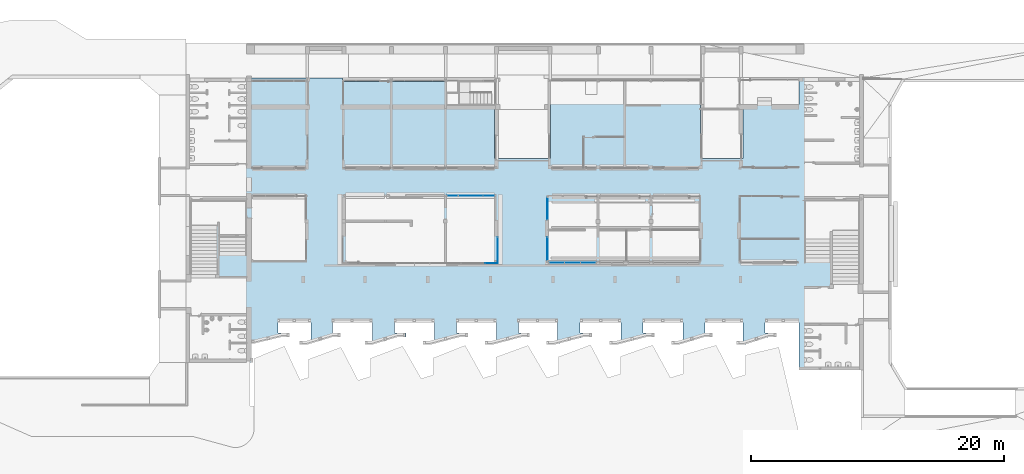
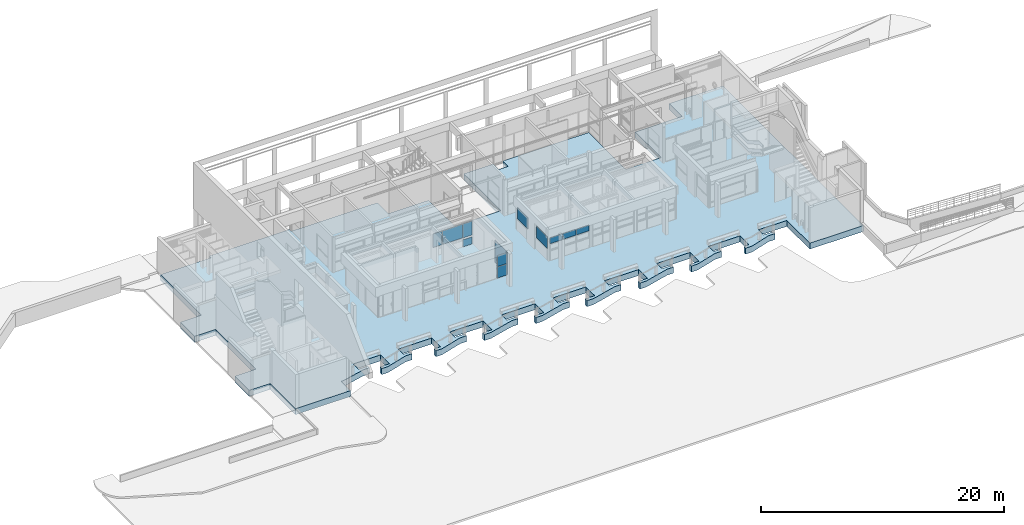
# One storey, part 35 of 117: 12 plates, 1 slab, 6 elements without a shape of their own.
"""IFC4 building model written with IfcOpenShell, lengths in metres."""

from ifc_helpers import new_model, entity, si_unit, converted_unit, derived_unit, direction, frame, origin, place, context, subcontext, project, spatial, indexed_curve, outline, extrude, source, transform, mapped, material, type_object, type_shapes, element, aggregate, save


model = new_model("IFC4")

# Units and contexts
model_context = context("Model", 3, precision=1e-05, world=origin(), true_north=direction((6.123031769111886e-17, 1.0)))
body_context = subcontext(model_context, "Body", "Model", "MODEL_VIEW")
ifc_project = project(units=[si_unit("LENGTHUNIT", "METRE"), si_unit("AREAUNIT", "SQUARE_METRE"), si_unit("VOLUMEUNIT", "CUBIC_METRE"), converted_unit("PLANEANGLEUNIT", "DEGREE", entity("IfcRatioMeasure", 0.017453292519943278), si_unit("PLANEANGLEUNIT", "RADIAN"), dimensions=[0, 0, 0, 0, 0, 0, 0]), si_unit("MASSUNIT", "GRAM", prefix="KILO"), derived_unit("MASSDENSITYUNIT", [(si_unit("MASSUNIT", "GRAM", prefix="KILO"), 1), (si_unit("LENGTHUNIT", "METRE"), -3)]), derived_unit("MOMENTOFINERTIAUNIT", [(si_unit("LENGTHUNIT", "METRE"), 4)]), si_unit("TIMEUNIT", "SECOND"), si_unit("FREQUENCYUNIT", "HERTZ"), si_unit("THERMODYNAMICTEMPERATUREUNIT", "DEGREE_CELSIUS"), derived_unit("THERMALTRANSMITTANCEUNIT", [(si_unit("MASSUNIT", "GRAM", prefix="KILO"), 1), (si_unit("THERMODYNAMICTEMPERATUREUNIT", "KELVIN"), -1), (si_unit("TIMEUNIT", "SECOND"), -3)]), derived_unit("VOLUMETRICFLOWRATEUNIT", [(si_unit("LENGTHUNIT", "METRE"), 3), (si_unit("TIMEUNIT", "SECOND"), -1)]), derived_unit("MASSFLOWRATEUNIT", [(si_unit("MASSUNIT", "GRAM", prefix="KILO"), 1), (si_unit("TIMEUNIT", "SECOND"), -1)]), derived_unit("ROTATIONALFREQUENCYUNIT", [(si_unit("TIMEUNIT", "SECOND"), -1)]), si_unit("ELECTRICCURRENTUNIT", "AMPERE"), si_unit("ELECTRICVOLTAGEUNIT", "VOLT"), si_unit("POWERUNIT", "WATT"), si_unit("FORCEUNIT", "NEWTON", prefix="KILO"), si_unit("ILLUMINANCEUNIT", "LUX"), si_unit("LUMINOUSFLUXUNIT", "LUMEN"), si_unit("LUMINOUSINTENSITYUNIT", "CANDELA"), derived_unit("USERDEFINED", [(si_unit("MASSUNIT", "GRAM", prefix="KILO"), -1), (si_unit("LENGTHUNIT", "METRE"), -2), (si_unit("TIMEUNIT", "SECOND"), 3), (si_unit("LUMINOUSFLUXUNIT", "LUMEN"), 1)]), derived_unit("SOUNDPOWERUNIT", [(si_unit("MASSUNIT", "GRAM", prefix="KILO"), 1), (si_unit("LENGTHUNIT", "METRE"), 2), (si_unit("TIMEUNIT", "SECOND"), -3)]), derived_unit("SOUNDPRESSUREUNIT", [(si_unit("MASSUNIT", "GRAM", prefix="KILO"), 1), (si_unit("LENGTHUNIT", "METRE"), -1), (si_unit("TIMEUNIT", "SECOND"), -2)]), derived_unit("LINEARVELOCITYUNIT", [(si_unit("LENGTHUNIT", "METRE"), 1), (si_unit("TIMEUNIT", "SECOND"), -1)]), si_unit("PRESSUREUNIT", "PASCAL"), derived_unit("USERDEFINED", [(si_unit("LENGTHUNIT", "METRE"), -2), (si_unit("MASSUNIT", "GRAM", prefix="KILO"), 1), (si_unit("TIMEUNIT", "SECOND"), -2)]), derived_unit("LINEARFORCEUNIT", [(si_unit("MASSUNIT", "GRAM", prefix="KILO"), 1), (si_unit("LENGTHUNIT", "METRE"), 1), (si_unit("TIMEUNIT", "SECOND"), -2), (si_unit("LENGTHUNIT", "METRE"), -1)]), derived_unit("PLANARFORCEUNIT", [(si_unit("MASSUNIT", "GRAM", prefix="KILO"), 1), (si_unit("LENGTHUNIT", "METRE"), 1), (si_unit("TIMEUNIT", "SECOND"), -2), (si_unit("LENGTHUNIT", "METRE"), -2)])], contexts=[model_context])

# Site, building, storey
site_placement = place(None, origin())
site = spatial("IfcSite", under=ifc_project, at=site_placement, Name="Superficie", CompositionType="ELEMENT")
building_placement = place(site_placement, origin())
building = spatial("IfcBuilding", under=site, at=building_placement, CompositionType="ELEMENT")
storey_placement = place(building_placement, origin())
storey = spatial("IfcBuildingStorey", under=building, at=storey_placement, Name="Nivel 0", CompositionType="ELEMENT", Elevation=0.0)

# Slab
ifc_material_1 = material(Name="Suelos por defecto", Category="Genérico")
slab_type = type_object("IfcSlabType", Name="Suelo:Por defecto - 60 cm 2", PredefinedType="FLOOR", material=ifc_material_1)
slab_placement = place(storey_placement, origin())
element("IfcSlab", 1, at=slab_placement, inside=storey, type_object=slab_type, material=ifc_material_1, Name="Suelo:Por defecto - 60 cm 2", ObjectType="Suelo:Por defecto - 60 cm 2", PredefinedType="FLOOR", context=body_context, shape_type="SweptSolid", body=[
    extrude(outline(indexed_curve([(7.188764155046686, -27.0347429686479), (9.543764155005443, -27.0347429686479), (9.543764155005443, -25.034742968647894), (16.263764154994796, -25.034742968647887), (16.263764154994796, -20.23474296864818), (16.563764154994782, -20.23474296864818), (16.56376415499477, -12.654742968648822), (16.263764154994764, -12.654742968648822), (16.263764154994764, -4.458930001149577), (14.458393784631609, -4.458930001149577), (14.458393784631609, -0.6447429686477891), (10.209674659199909, -0.6447429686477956), (10.209674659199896, 3.75001004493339), (16.297483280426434, 3.750010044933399), (16.297483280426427, 6.535010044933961), (15.397483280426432, 6.535010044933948), (15.397483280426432, 7.450010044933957), (16.297483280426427, 7.450010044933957), (16.2974832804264, 15.600257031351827), (10.20967465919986, 15.600257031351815), (10.20967465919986, 18.95525703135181), (14.463764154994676, 18.95525703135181), (14.463764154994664, 23.39525703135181), (16.577483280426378, 23.395257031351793), (16.577483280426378, 28.485257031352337), (-6.521235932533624, 28.485257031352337), (-6.521235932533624, 23.395257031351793), (-2.7512055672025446, 23.395257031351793), (-2.7512055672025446, 20.724717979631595), (-3.591235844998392, 20.72471797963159), (-3.591235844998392, 21.624490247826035), (-3.8912358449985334, 21.624490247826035), (-3.8912358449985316, 21.024490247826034), (-4.511205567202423, 19.074459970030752), (-4.511205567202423, 18.474459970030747), (-4.201205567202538, 18.474459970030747), (-4.201205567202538, 18.97445997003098), (-2.751205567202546, 18.97445997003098), (-2.751205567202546, 15.954459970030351), (-3.5912055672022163, 15.954459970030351), (-3.5912055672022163, 16.554459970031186), (-3.8912055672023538, 16.554459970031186), (-3.8912055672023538, 15.954459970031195), (-4.5012055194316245, 13.92446012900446), (-4.501205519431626, 13.324346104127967), (-4.201205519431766, 13.324346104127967), (-4.201205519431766, 14.225257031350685), (-2.751205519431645, 14.225257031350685), (-2.751205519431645, 11.064801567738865), (-3.5912055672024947, 11.064801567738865), (-3.5912055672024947, 11.964573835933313), (-3.891205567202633, 11.964573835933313), (-3.891205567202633, 11.364573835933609), (-4.501205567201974, 9.035257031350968), (-4.501205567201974, 8.435257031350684), (-4.201205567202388, 8.435257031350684), (-4.201205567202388, 9.334801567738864), (-2.7512055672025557, 9.334801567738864), (-2.751205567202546, 6.085029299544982), (-3.5912055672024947, 6.085029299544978), (-3.5912055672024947, 7.024801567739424), (-3.891205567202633, 7.024801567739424), (-3.891205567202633, 6.424801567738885), (-4.501205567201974, 4.094801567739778), (-4.501205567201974, 3.435257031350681), (-4.201205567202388, 3.435257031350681), (-4.201205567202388, 4.335257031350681), (-2.7512055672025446, 4.335257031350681), (-2.7512055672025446, 1.225029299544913), (-3.591205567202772, 1.225029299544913), (-3.591205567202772, 2.12480156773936), (-3.891205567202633, 2.12480156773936), (-3.891205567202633, 1.5248015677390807), (-4.501205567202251, -0.8051984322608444), (-4.501205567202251, -1.4051984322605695), (-4.201205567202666, -1.4051984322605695), (-4.201205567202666, -0.5047429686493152), (-2.751205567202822, -0.5047429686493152), (-2.751205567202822, -3.6548568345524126), (-3.591205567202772, -3.6548568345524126), (-3.591205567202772, -2.7550845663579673), (-3.8912055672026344, -2.7550845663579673), (-3.8912055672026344, -3.3550845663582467), (-4.50120556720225, -5.705084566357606), (-4.501205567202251, -6.30508456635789), (-4.201205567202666, -6.30508456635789), (-4.201205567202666, -5.404742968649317), (-2.751205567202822, -5.404742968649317), (-2.751205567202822, -8.564742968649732), (-3.591205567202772, -8.564742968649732), (-3.591205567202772, -7.664970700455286), (-3.8912055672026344, -7.664970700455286), (-3.8912055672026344, -8.26497070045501), (-4.5014934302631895, -10.303155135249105), (-4.5014934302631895, -10.903155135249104), (-4.20149343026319, -10.903155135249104), (-4.201493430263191, -10.30474296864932), (-2.7512358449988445, -10.30474296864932), (-2.7512358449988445, -13.444742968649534), (-3.5912358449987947, -13.444742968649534), (-3.5912358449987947, -12.814742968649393), (-3.891235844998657, -12.814742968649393), (-3.891235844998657, -13.414742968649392), (-4.5012358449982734, -15.444742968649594), (-4.5012358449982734, -16.044742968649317), (-4.201235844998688, -16.044742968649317), (-4.201235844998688, -15.144742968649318), (-2.7512358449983, -15.144742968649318), (-2.751235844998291, -17.744742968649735), (-3.59123584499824, -17.744742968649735), (-3.59123584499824, -16.844742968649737), (-3.8912358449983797, -16.844742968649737), (-3.8912358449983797, -17.444742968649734), (-4.401606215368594, -19.574742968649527), (-4.401606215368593, -19.834742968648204), (-5.931235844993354, -19.834742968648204), (-5.931235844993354, -25.03474296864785), (-1.7517327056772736, -25.03474296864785), (-1.7517327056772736, -27.034742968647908), (0.6032672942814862, -27.034742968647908), (0.6032672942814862, -25.034742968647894), (7.188764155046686, -25.034742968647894), (7.188764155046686, -27.0347429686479)], self_intersect=False)), frame((-2.8084580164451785, -3.692934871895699, 0.0), z_axis=(0.0, 0.0, -1.0), x_axis=(0.0, 1.0, 0.0)), (0.0, 0.0, 1.0), 0.5999999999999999),
])

# Curtain wall, plate
curtain_wall_type = type_object("IfcCurtainWallType", Name="Muro cortina:Muro cortina - simple", PredefinedType="NOTDEFINED")
curtain_wall_1_placement = place(storey_placement, origin())
curtain_wall_1 = element("IfcCurtainWall", 2, at=curtain_wall_1_placement, inside=storey, type_object=curtain_wall_type, Name="Muro cortina:Muro cortina - simple", ObjectType="Muro cortina:Muro cortina - simple", PredefinedType="NOTDEFINED")
ifc_material_2 = material(Name="Cristal", Category="Vidrio")
plate_type_1 = type_object("IfcPlateType", Name="Panel de sistema:Acristalado", PredefinedType="CURTAIN_PANEL", material=ifc_material_2)
shared_shape_1 = source(origin(), body_context, "Body", "SweptSolid", [
    extrude(outline(indexed_curve([(-0.01, -0.8992660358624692), (0.01, -0.8992660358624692), (0.01, 0.8992660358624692), (-0.01, 0.8992660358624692), (-0.01, -0.8992660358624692)], self_intersect=False)), frame((0.0, 0.0, 0.0), z_axis=(0.0, 0.0, 1.0), x_axis=(0.0, 1.0, 0.0)), (0.0, 0.0, 1.0), 1.1749999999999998),
])
type_shapes(plate_type_1, [shared_shape_1])
plate_1_placement = place(curtain_wall_1_placement, frame((0.7267990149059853, -0.6299046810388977, 1.125), z_axis=(0.0, 0.0, 1.0), x_axis=(0.0, -1.0, 0.0)))
plate_1 = element("IfcPlate", 3, at=plate_1_placement, type_object=plate_type_1, material=ifc_material_2, Name="Panel de sistema:Acristalado", ObjectType="Panel de sistema:Acristalado", PredefinedType="CURTAIN_PANEL", context=body_context, shape_type="MappedRepresentation", body=[
    mapped(shared_shape_1, transform((0.0, 0.0, 0.0), scale=1.0)),
])
aggregate(curtain_wall_1, [plate_1])

curtain_wall_2_placement = place(storey_placement, origin())
curtain_wall_2 = element("IfcCurtainWall", 4, at=curtain_wall_2_placement, inside=storey, type_object=curtain_wall_type, Name="Muro cortina:Muro cortina - simple", ObjectType="Muro cortina:Muro cortina - simple", PredefinedType="NOTDEFINED")
plate_type_2 = type_object("IfcPlateType", Name="Panel de sistema:Acristalado", PredefinedType="CURTAIN_PANEL", material=ifc_material_2)
shared_shape_2 = source(origin(), body_context, "Body", "SweptSolid", [
    extrude(outline(indexed_curve([(-0.01, -0.8581762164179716), (0.01, -0.8581762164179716), (0.01, 0.8581762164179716), (-0.01, 0.8581762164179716), (-0.01, -0.8581762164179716)], self_intersect=False)), frame((0.0, 0.0, 0.0), z_axis=(0.0, 0.0, 1.0), x_axis=(0.0, 1.0, 0.0)), (0.0, 0.0, 1.0), 1.1549999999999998),
])
type_shapes(plate_type_2, [shared_shape_2])
plate_2_placement = place(curtain_wall_2_placement, frame((0.7267990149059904, 2.542537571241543, 1.1450000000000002), z_axis=(0.0, 0.0, 1.0), x_axis=(0.0, -1.0, 0.0)))
plate_2 = element("IfcPlate", 5, at=plate_2_placement, type_object=plate_type_2, material=ifc_material_2, Name="Panel de sistema:Acristalado", ObjectType="Panel de sistema:Acristalado", PredefinedType="CURTAIN_PANEL", context=body_context, shape_type="MappedRepresentation", body=[
    mapped(shared_shape_2, transform((0.0, 0.0, 0.0), scale=1.0)),
])
aggregate(curtain_wall_2, [plate_2])

curtain_wall_3_placement = place(storey_placement, origin())
curtain_wall_3 = element("IfcCurtainWall", 6, at=curtain_wall_3_placement, inside=storey, type_object=curtain_wall_type, Name="Muro cortina:Muro cortina - simple", ObjectType="Muro cortina:Muro cortina - simple", PredefinedType="NOTDEFINED")
plate_type_3 = type_object("IfcPlateType", Name="Panel de sistema:Acristalado", PredefinedType="CURTAIN_PANEL", material=ifc_material_2)
shared_shape_3 = source(origin(), body_context, "Body", "SweptSolid", [
    extrude(outline(indexed_curve([(-0.01, -1.0234496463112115), (0.01, -1.0234496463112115), (0.01, 1.0234496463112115), (-0.01, 1.0234496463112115), (-0.01, -1.0234496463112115)], self_intersect=False)), frame((0.0, 0.0, 0.0), z_axis=(0.0, 0.0, 1.0), x_axis=(0.0, 1.0, 0.0)), (0.0, 0.0, 1.0), 2.25),
])
type_shapes(plate_type_3, [shared_shape_3])
plate_3_placement = place(curtain_wall_3_placement, frame((-3.2132009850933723, -0.7407210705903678, 0.05), z_axis=(0.0, 0.0, 1.0), x_axis=(0.0, 1.0, 0.0)))
plate_3 = element("IfcPlate", 7, at=plate_3_placement, type_object=plate_type_3, material=ifc_material_2, Name="Panel de sistema:Acristalado", ObjectType="Panel de sistema:Acristalado", PredefinedType="CURTAIN_PANEL", context=body_context, shape_type="MappedRepresentation", body=[
    mapped(shared_shape_3, transform((0.0, 0.0, 0.0), scale=1.0)),
])
aggregate(curtain_wall_3, [plate_3])

# Curtain wall, plates
curtain_wall_4_placement = place(storey_placement, origin())
curtain_wall_4 = element("IfcCurtainWall", 8, at=curtain_wall_4_placement, inside=storey, type_object=curtain_wall_type, Name="Muro cortina:Muro cortina - simple", ObjectType="Muro cortina:Muro cortina - simple", PredefinedType="NOTDEFINED")
plate_type_4 = type_object("IfcPlateType", Name="Panel de sistema:Acristalado", PredefinedType="CURTAIN_PANEL", material=ifc_material_2)
shared_shape_4 = source(origin(), body_context, "Body", "SweptSolid", [
    extrude(outline(indexed_curve([(-0.01, -0.4149999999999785), (0.01, -0.4149999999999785), (0.01, 0.4149999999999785), (-0.01, 0.4149999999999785), (-0.01, -0.4149999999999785)], self_intersect=False)), frame((0.0, 0.0, 0.0), z_axis=(0.0, 0.0, 1.0), x_axis=(0.0, 1.0, 0.0)), (0.0, 0.0, 1.0), 0.6999999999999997),
])
type_shapes(plate_type_4, [shared_shape_4])
plate_4_placement = place(curtain_wall_4_placement, frame((-3.9332009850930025, 3.555829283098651, 0.019999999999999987), z_axis=(0.0, 0.0, 1.0), x_axis=(-1.0, 0.0, 0.0)))
plate_4 = element("IfcPlate", 9, at=plate_4_placement, type_object=plate_type_4, material=ifc_material_2, Name="Panel de sistema:Acristalado", ObjectType="Panel de sistema:Acristalado", PredefinedType="CURTAIN_PANEL", context=body_context, shape_type="MappedRepresentation", body=[
    mapped(shared_shape_4, transform((0.0, 0.0, 0.0), scale=1.0)),
])
plate_type_5 = type_object("IfcPlateType", Name="Panel de sistema:Acristalado", PredefinedType="CURTAIN_PANEL", material=ifc_material_2)
shared_shape_5 = source(origin(), body_context, "Body", "SweptSolid", [
    extrude(outline(indexed_curve([(-0.01, -0.4149999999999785), (0.01, -0.4149999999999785), (0.01, 0.4149999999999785), (-0.01, 0.4149999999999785), (-0.01, -0.4149999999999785)], self_intersect=False)), frame((0.0, 0.0, 0.0), z_axis=(0.0, 0.0, 1.0), x_axis=(0.0, 1.0, 0.0)), (0.0, 0.0, 1.0), 1.41),
])
type_shapes(plate_type_5, [shared_shape_5])
plate_5_placement = place(curtain_wall_4_placement, frame((-3.9332009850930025, 3.555829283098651, 0.9199999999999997), z_axis=(0.0, 0.0, 1.0), x_axis=(-1.0, 0.0, 0.0)))
plate_5 = element("IfcPlate", 10, at=plate_5_placement, type_object=plate_type_5, material=ifc_material_2, Name="Panel de sistema:Acristalado", ObjectType="Panel de sistema:Acristalado", PredefinedType="CURTAIN_PANEL", context=body_context, shape_type="MappedRepresentation", body=[
    mapped(shared_shape_5, transform((0.0, 0.0, 0.0), scale=1.0)),
])
plate_type_6 = type_object("IfcPlateType", Name="Panel de sistema:Acristalado", PredefinedType="CURTAIN_PANEL", material=ifc_material_2)
shared_shape_6 = source(origin(), body_context, "Body", "SweptSolid", [
    extrude(outline(indexed_curve([(-0.01, -0.9550000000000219), (0.01, -0.9550000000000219), (0.01, 0.9550000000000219), (-0.01, 0.9550000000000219), (-0.01, -0.9550000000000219)], self_intersect=False)), frame((0.0, 0.0, 0.0), z_axis=(0.0, 0.0, 1.0), x_axis=(0.0, 1.0, 0.0)), (0.0, 0.0, 1.0), 1.36),
])
type_shapes(plate_type_6, [shared_shape_6])
plate_6_placement = place(curtain_wall_4_placement, frame((-5.353200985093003, 3.5558292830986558, 0.9449999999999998), z_axis=(0.0, 0.0, 1.0), x_axis=(-1.0, 0.0, 0.0)))
plate_6 = element("IfcPlate", 11, at=plate_6_placement, type_object=plate_type_6, material=ifc_material_2, Name="Panel de sistema:Acristalado", ObjectType="Panel de sistema:Acristalado", PredefinedType="CURTAIN_PANEL", context=body_context, shape_type="MappedRepresentation", body=[
    mapped(shared_shape_6, transform((0.0, 0.0, 0.0), scale=1.0)),
])
plate_type_7 = type_object("IfcPlateType", Name="Panel de sistema:Acristalado", PredefinedType="CURTAIN_PANEL", material=ifc_material_2)
shared_shape_7 = source(origin(), body_context, "Body", "SweptSolid", [
    extrude(outline(indexed_curve([(-0.01, -0.42499999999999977), (0.01, -0.42499999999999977), (0.01, 0.42499999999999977), (-0.01, 0.42499999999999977), (-0.01, -0.42499999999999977)], self_intersect=False)), frame((0.0, 0.0, 0.0), z_axis=(0.0, 0.0, 1.0), x_axis=(0.0, 1.0, 0.0)), (0.0, 0.0, 1.0), 1.3599999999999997),
])
type_shapes(plate_type_7, [shared_shape_7])
plate_7_placement = place(curtain_wall_4_placement, frame((-6.783200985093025, 3.55582928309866, 0.9449999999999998), z_axis=(0.0, 0.0, 1.0), x_axis=(-1.0, 0.0, 0.0)))
plate_7 = element("IfcPlate", 12, at=plate_7_placement, type_object=plate_type_7, material=ifc_material_2, Name="Panel de sistema:Acristalado", ObjectType="Panel de sistema:Acristalado", PredefinedType="CURTAIN_PANEL", context=body_context, shape_type="MappedRepresentation", body=[
    mapped(shared_shape_7, transform((0.0, 0.0, 0.0), scale=1.0)),
])
aggregate(curtain_wall_4, [plate_4, plate_5, plate_6, plate_7])

curtain_wall_5_placement = place(storey_placement, origin())
curtain_wall_5 = element("IfcCurtainWall", 13, at=curtain_wall_5_placement, inside=storey, type_object=curtain_wall_type, Name="Muro cortina:Muro cortina - simple", ObjectType="Muro cortina:Muro cortina - simple", PredefinedType="NOTDEFINED")
plate_type_8 = type_object("IfcPlateType", Name="Panel de sistema:Acristalado", PredefinedType="CURTAIN_PANEL", material=ifc_material_2)
shared_shape_8 = source(origin(), body_context, "Body", "SweptSolid", [
    extrude(outline(indexed_curve([(-0.01, -0.5966666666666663), (0.01, -0.5966666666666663), (0.01, 0.5966666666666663), (-0.01, 0.5966666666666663), (-0.01, -0.5966666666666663)], self_intersect=False)), frame((0.0, 0.0, 0.0), z_axis=(0.0, 0.0, 1.0), x_axis=(0.0, 1.0, 0.0)), (0.0, 0.0, 1.0), 0.5750000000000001),
])
type_shapes(plate_type_8, [shared_shape_8])
plate_8_placement = place(curtain_wall_5_placement, frame((3.9501323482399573, -1.724170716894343, 1.7249999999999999), z_axis=(0.0, 0.0, 1.0), x_axis=(-1.0, 0.0, 0.0)))
plate_8 = element("IfcPlate", 14, at=plate_8_placement, type_object=plate_type_8, material=ifc_material_2, Name="Panel de sistema:Acristalado", ObjectType="Panel de sistema:Acristalado", PredefinedType="CURTAIN_PANEL", context=body_context, shape_type="MappedRepresentation", body=[
    mapped(shared_shape_8, transform((0.0, 0.0, 0.0), scale=1.0)),
])
plate_9_placement = place(curtain_wall_5_placement, frame((1.4384656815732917, -1.7241707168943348, 1.7249999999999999), z_axis=(0.0, 0.0, 1.0), x_axis=(-1.0, 0.0, 0.0)))
plate_9 = element("IfcPlate", 15, at=plate_9_placement, type_object=plate_type_8, material=ifc_material_2, Name="Panel de sistema:Acristalado", ObjectType="Panel de sistema:Acristalado", PredefinedType="CURTAIN_PANEL", context=body_context, shape_type="MappedRepresentation", body=[
    mapped(shared_shape_8, transform((0.0, 0.0, 0.0), scale=1.0)),
])
plate_type_9 = type_object("IfcPlateType", Name="Panel de sistema:Acristalado", PredefinedType="CURTAIN_PANEL", material=ifc_material_2)
shared_shape_9 = source(origin(), body_context, "Body", "SweptSolid", [
    extrude(outline(indexed_curve([(-0.01, -0.6091666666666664), (0.01, -0.6091666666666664), (0.01, 0.6091666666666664), (-0.01, 0.6091666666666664), (-0.01, -0.6091666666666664)], self_intersect=False)), frame((0.0, 0.0, 0.0), z_axis=(0.0, 0.0, 1.0), x_axis=(0.0, 1.0, 0.0)), (0.0, 0.0, 1.0), 0.5750000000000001),
])
type_shapes(plate_type_9, [shared_shape_9])
plate_10_placement = place(curtain_wall_5_placement, frame((2.694299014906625, -1.724170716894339, 1.7249999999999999), z_axis=(0.0, 0.0, 1.0), x_axis=(-1.0, 0.0, 0.0)))
plate_10 = element("IfcPlate", 16, at=plate_10_placement, type_object=plate_type_9, material=ifc_material_2, Name="Panel de sistema:Acristalado", ObjectType="Panel de sistema:Acristalado", PredefinedType="CURTAIN_PANEL", context=body_context, shape_type="MappedRepresentation", body=[
    mapped(shared_shape_9, transform((0.0, 0.0, 0.0), scale=1.0)),
])
aggregate(curtain_wall_5, [plate_8, plate_10, plate_9])

curtain_wall_6_placement = place(storey_placement, origin())
curtain_wall_6 = element("IfcCurtainWall", 17, at=curtain_wall_6_placement, inside=storey, type_object=curtain_wall_type, Name="Muro cortina:Muro cortina - simple", ObjectType="Muro cortina:Muro cortina - simple", PredefinedType="NOTDEFINED")
plate_type_10 = type_object("IfcPlateType", Name="Panel de sistema:Acristalado", PredefinedType="CURTAIN_PANEL", material=ifc_material_2)
shared_shape_10 = source(origin(), body_context, "Body", "SweptSolid", [
    extrude(outline(indexed_curve([(-0.6749999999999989, -0.45991405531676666), (0.25000000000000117, -0.45991405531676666), (0.4250000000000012, -0.45991405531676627), (0.42499999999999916, 0.4599140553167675), (0.24999999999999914, 0.4599140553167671), (-0.6750000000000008, 0.45991405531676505), (-0.6749999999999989, -0.45991405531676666)], self_intersect=False)), frame((0.0, -0.01, 0.6749999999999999), z_axis=(0.0, 1.0, 0.0), x_axis=(0.0, 0.0, 1.0)), (0.0, 0.0, 1.0), 0.02),
])
type_shapes(plate_type_10, [shared_shape_10])
plate_11_placement = place(curtain_wall_6_placement, frame((-3.723115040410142, -1.7641707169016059, 0.05)))
plate_11 = element("IfcPlate", 18, at=plate_11_placement, type_object=plate_type_10, material=ifc_material_2, Name="Panel de sistema:Acristalado", ObjectType="Panel de sistema:Acristalado", PredefinedType="CURTAIN_PANEL", context=body_context, shape_type="MappedRepresentation", body=[
    mapped(shared_shape_10, transform((0.0, 0.0, 0.0), scale=1.0)),
])
plate_type_11 = type_object("IfcPlateType", Name="Panel de sistema:Acristalado", PredefinedType="CURTAIN_PANEL", material=ifc_material_2)
shared_shape_11 = source(origin(), body_context, "Body", "SweptSolid", [
    extrude(outline(indexed_curve([(-0.5541666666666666, -0.4599140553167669), (0.008333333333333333, -0.4599140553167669), (0.5458333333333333, -0.4599140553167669), (0.5458333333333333, 0.4599140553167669), (0.008333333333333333, 0.4599140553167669), (-0.5541666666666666, 0.4599140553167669), (-0.5541666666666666, -0.4599140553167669)], self_intersect=False)), frame((0.0, -0.01, 0.5541666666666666), z_axis=(0.0, 1.0, 0.0), x_axis=(0.0, 0.0, 1.0)), (0.0, 0.0, 1.0), 0.02),
])
type_shapes(plate_type_11, [shared_shape_11])
plate_12_placement = place(curtain_wall_6_placement, frame((-3.723115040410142, -1.7641707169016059, 1.2000000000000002)))
plate_12 = element("IfcPlate", 19, at=plate_12_placement, type_object=plate_type_11, material=ifc_material_2, Name="Panel de sistema:Acristalado", ObjectType="Panel de sistema:Acristalado", PredefinedType="CURTAIN_PANEL", context=body_context, shape_type="MappedRepresentation", body=[
    mapped(shared_shape_11, transform((0.0, 0.0, 0.0), scale=1.0)),
])
aggregate(curtain_wall_6, [plate_11, plate_12])

save(model, "model.ifc")
